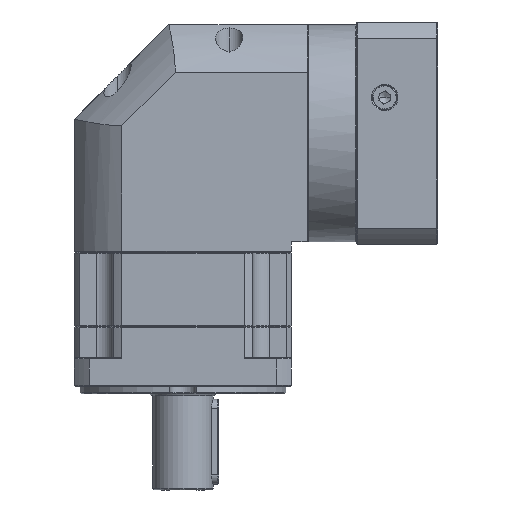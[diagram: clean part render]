
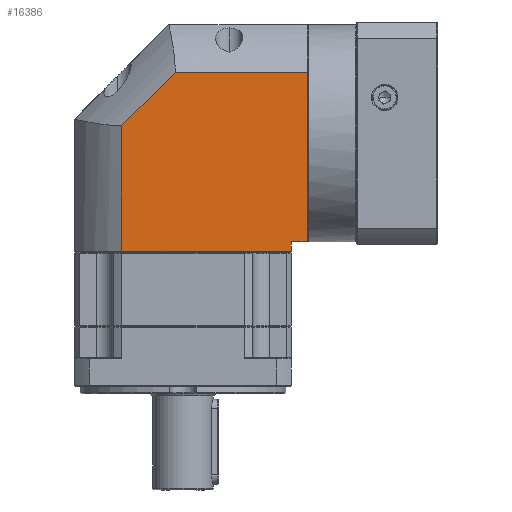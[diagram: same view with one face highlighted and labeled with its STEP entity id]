
A CAD part, front view. The second image highlights one B-rep face of the part: STEP entity #16386.
In plain terms, the highlighted planar face has unit normal (0, -1, 0).
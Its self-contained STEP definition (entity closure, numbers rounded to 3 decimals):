
#602 = VECTOR ( 'NONE', #92943, 1000. ) ;
#1006 = CARTESIAN_POINT ( 'NONE',  ( 5.136, 28.629, 31.694 ) ) ;
#4654 = EDGE_CURVE ( 'NONE', #27015, #103567, #132962, .T. ) ;
#7162 = VECTOR ( 'NONE', #124486, 1000. ) ;
#10064 = DIRECTION ( 'NONE',  ( 1., 0., 0. ) ) ;
#11780 = EDGE_CURVE ( 'NONE', #103567, #84166, #17025, .T. ) ;
#12195 = EDGE_CURVE ( 'NONE', #84348, #20853, #105014, .T. ) ;
#15800 = LINE ( 'NONE', #37408, #135803 ) ;
#16386 = ADVANCED_FACE ( 'NONE', ( #62849 ), #92596, .F. ) ;
#17025 = LINE ( 'NONE', #1006, #81963 ) ;
#20853 = VERTEX_POINT ( 'NONE', #81068 ) ;
#24099 = CARTESIAN_POINT ( 'NONE',  ( 103.436, 28.629, 60.032 ) ) ;
#25169 = VECTOR ( 'NONE', #136009, 1000. ) ;
#25705 = ORIENTED_EDGE ( 'NONE', *, *, #74256, .F. ) ;
#26774 = EDGE_LOOP ( 'NONE', ( #25705, #85249, #32979, #88844, #44012, #101822, #105225 ) ) ;
#27015 = VERTEX_POINT ( 'NONE', #78112 ) ;
#29516 = CARTESIAN_POINT ( 'NONE',  ( 95.036, 28.629, -34.868 ) ) ;
#29747 = DIRECTION ( 'NONE',  ( 0., 0., 1. ) ) ;
#32848 = VERTEX_POINT ( 'NONE', #38381 ) ;
#32979 = ORIENTED_EDGE ( 'NONE', *, *, #12195, .F. ) ;
#35360 = DIRECTION ( 'NONE',  ( -1., 0., 0. ) ) ;
#37408 = CARTESIAN_POINT ( 'NONE',  ( -19.964, 28.629, 60.032 ) ) ;
#38381 = CARTESIAN_POINT ( 'NONE',  ( 95.036, 28.629, -29.868 ) ) ;
#40239 = CARTESIAN_POINT ( 'NONE',  ( 95.036, 28.629, -41.368 ) ) ;
#44012 = ORIENTED_EDGE ( 'NONE', *, *, #11780, .F. ) ;
#44567 = VECTOR ( 'NONE', #29747, 1000. ) ;
#49506 = CARTESIAN_POINT ( 'NONE',  ( -19.964, 28.629, -34.868 ) ) ;
#52480 = DIRECTION ( 'NONE',  ( 0., 1., 0. ) ) ;
#55044 = DIRECTION ( 'NONE',  ( 0.707, 0., 0.707 ) ) ;
#55427 = CARTESIAN_POINT ( 'NONE',  ( -19.964, 28.629, -29.868 ) ) ;
#62849 = FACE_OUTER_BOUND ( 'NONE', #26774, .T. ) ;
#63811 = LINE ( 'NONE', #49506, #7162 ) ;
#72207 = CARTESIAN_POINT ( 'NONE',  ( 33.474, 28.629, 60.032 ) ) ;
#73619 = LINE ( 'NONE', #55427, #126918 ) ;
#74256 = EDGE_CURVE ( 'NONE', #32848, #120152, #135650, .T. ) ;
#78112 = CARTESIAN_POINT ( 'NONE',  ( 5.136, 28.629, -34.868 ) ) ;
#78754 = EDGE_CURVE ( 'NONE', #84166, #84348, #15800, .T. ) ;
#81068 = CARTESIAN_POINT ( 'NONE',  ( 103.436, 28.629, -29.868 ) ) ;
#81963 = VECTOR ( 'NONE', #55044, 1000. ) ;
#84166 = VERTEX_POINT ( 'NONE', #72207 ) ;
#84348 = VERTEX_POINT ( 'NONE', #24099 ) ;
#85249 = ORIENTED_EDGE ( 'NONE', *, *, #116679, .F. ) ;
#88844 = ORIENTED_EDGE ( 'NONE', *, *, #78754, .F. ) ;
#92272 = CARTESIAN_POINT ( 'NONE',  ( 103.436, 28.629, -41.368 ) ) ;
#92596 = PLANE ( 'NONE',  #110645 ) ;
#92943 = DIRECTION ( 'NONE',  ( 0., 0., -1. ) ) ;
#93596 = CARTESIAN_POINT ( 'NONE',  ( 5.136, 28.629, -41.368 ) ) ;
#99706 = EDGE_CURVE ( 'NONE', #120152, #27015, #63811, .T. ) ;
#101822 = ORIENTED_EDGE ( 'NONE', *, *, #4654, .F. ) ;
#103567 = VERTEX_POINT ( 'NONE', #115710 ) ;
#105014 = LINE ( 'NONE', #92272, #25169 ) ;
#105225 = ORIENTED_EDGE ( 'NONE', *, *, #99706, .F. ) ;
#110645 = AXIS2_PLACEMENT_3D ( 'NONE', #138114, #52480, #10064 ) ;
#115710 = CARTESIAN_POINT ( 'NONE',  ( 5.136, 28.629, 31.694 ) ) ;
#116679 = EDGE_CURVE ( 'NONE', #20853, #32848, #73619, .T. ) ;
#120152 = VERTEX_POINT ( 'NONE', #29516 ) ;
#124486 = DIRECTION ( 'NONE',  ( -1., 0., 0. ) ) ;
#126918 = VECTOR ( 'NONE', #35360, 1000. ) ;
#131961 = DIRECTION ( 'NONE',  ( 1., 0., 0. ) ) ;
#132962 = LINE ( 'NONE', #93596, #44567 ) ;
#135650 = LINE ( 'NONE', #40239, #602 ) ;
#135803 = VECTOR ( 'NONE', #131961, 1000. ) ;
#136009 = DIRECTION ( 'NONE',  ( 0., 0., -1. ) ) ;
#138114 = CARTESIAN_POINT ( 'NONE',  ( -19.964, 28.629, -41.368 ) ) ;
